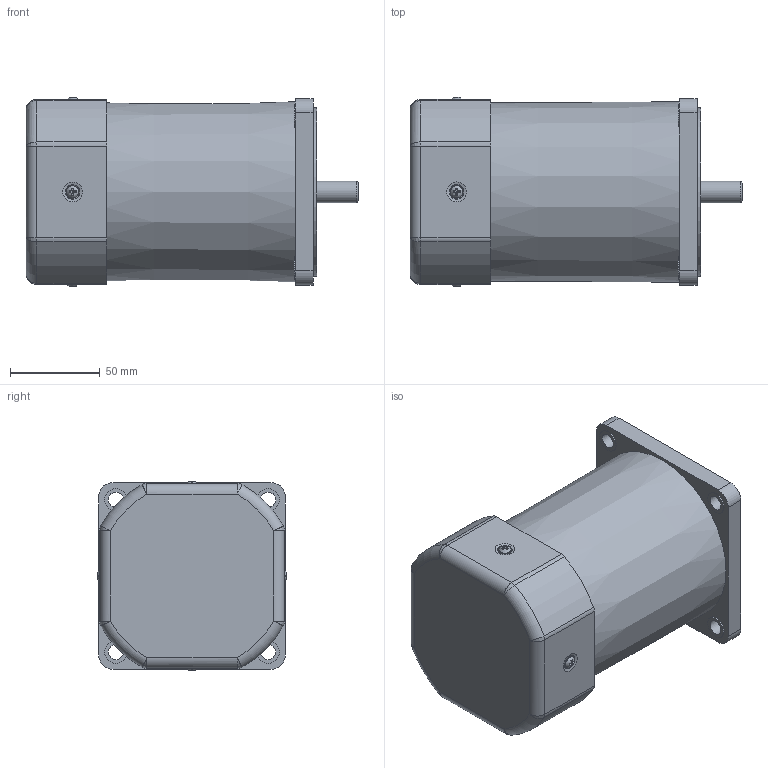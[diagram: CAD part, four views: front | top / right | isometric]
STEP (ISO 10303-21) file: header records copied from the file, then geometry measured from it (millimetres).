
FILE_DESCRIPTION((''),'2;1');
FILE_NAME('D:\yang\Yang cw\SPG 업무\2. DC MOTOR\7. DC MOTOR 브로슈어\AC MOTOR\104R각 200W\S10I200G_.stp','2015-03-30T14:22:24',('ycw1227'),(''),'Autodesk Inventor 2013','Autodesk Inventor 2013','');
FILE_SCHEMA(('AUTOMOTIVE_DESIGN { 1 0 10303 214 1 1 1 1 }'));
Length unit declared in the file: millimetre
Products named in the file (1): 부품66
Bounding box: 185 x 105.57 x 105.48 mm (x, y, z)
Volume: 1153185.9 mm3; surface area: 115294.9 mm2
Topology: 1 solids, 3 shells, 230 faces, 564 edges, 347 vertices
Faces by surface type: plane 98, cylinder 69, torus 24, bspline 20, cone 19
Full cylindrical faces by diameter (mm): 2.778 x1, 4 x4, 5 x4, 7 x4, 8.5 x4, 12.04 x1, 12.5 x4, 43 x1, 94 x1, 98 x1
Entity records: 7739 total; most frequent: CARTESIAN_POINT 2712, DIRECTION 956, ORIENTED_EDGE 910, EDGE_CURVE 455, AXIS2_PLACEMENT_3D 378, EDGE_LOOP 334, VERTEX_POINT 319, FACE_OUTER_BOUND 230
